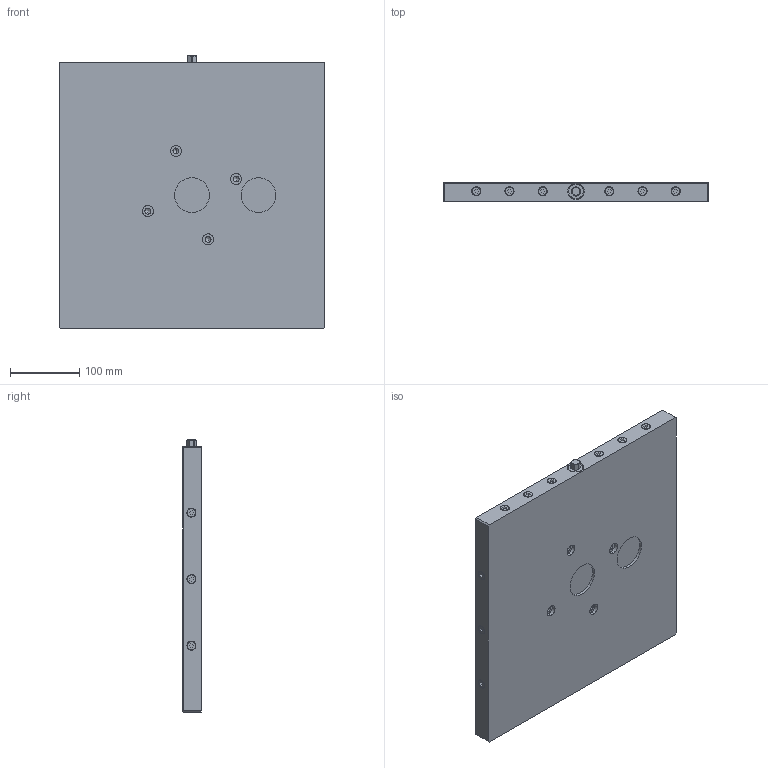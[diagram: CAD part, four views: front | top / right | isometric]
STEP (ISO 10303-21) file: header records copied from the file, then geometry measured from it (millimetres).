
FILE_DESCRIPTION (( 'STEP AP203' ), '1' );
FILE_NAME ('45740.STEP', '2015-03-11T10:35:08', ( '' ), ( '' ), 'SwSTEP 2.0', 'SolidWorks 2011', '' );
FILE_SCHEMA (( 'CONFIG_CONTROL_DESIGN' ));
Length unit declared in the file: millimetre
Products named in the file (1): 45740
Bounding box: 384 x 27 x 393 mm (x, y, z)
Volume: 3497649 mm3; surface area: 481230.1 mm2
Topology: 21 solids, 21 shells, 535 faces, 1312 edges, 809 vertices
Faces by surface type: plane 219, cylinder 194, cone 90, torus 32
Entity records: 17821 total; most frequent: CARTESIAN_POINT 5300, ORIENTED_EDGE 2608, DIRECTION 2563, EDGE_CURVE 1304, AXIS2_PLACEMENT_3D 931, VERTEX_POINT 809, LINE 701, VECTOR 701
